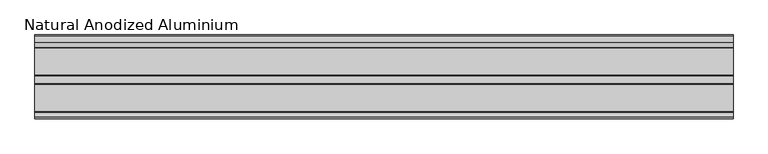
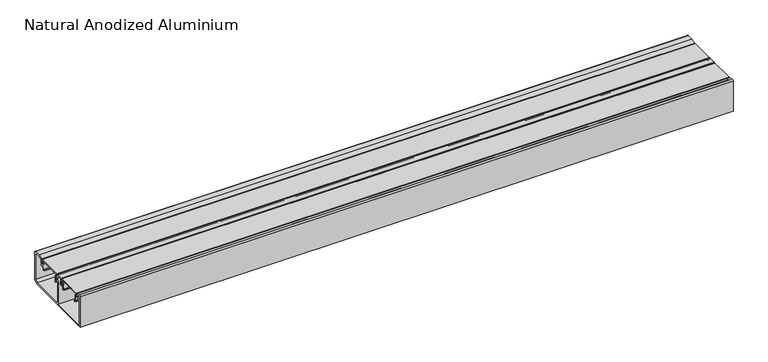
"""IFC4 building model written with IfcOpenShell, lengths in millimetres: proxy geometry, Electrical_Installations_Hager_GBA-Flat-Lid-End-Cap : Natural Anodized Aluminium."""

import ifcopenshell
import ifcopenshell.guid

model = None  # the IFC model being written
_history = None  # IfcOwnerHistory: only IFC2X3 demands one
_inside = {}  # id of a spatial element -> (the spatial element, [elements in it])
_under = {}  # id of a project, library or spatial element -> (it, [spatial elements below it])
_declared = {}  # id of a project -> (the project, [libraries it declares])
_typed = {}  # id of a type object -> (the type object, [elements of that type])
_made_of = {}  # id of a material, layer set ... -> (it, [elements and type objects made of it])


def new_model(schema):
    """Start an empty IFC model of exactly this schema.

    Asked for "IFC4X3", IfcOpenShell would pick the latest addendum, in which some entities
    have other attributes; the version numbers below select the first issue.
    IFC2X3 requires an IfcOwnerHistory on every rooted entity: one is made here for all.
    """
    global model, _history
    if schema == "IFC4X3":
        model = ifcopenshell.file(schema_version=(4, 3, 0, 0))
    else:
        model = ifcopenshell.file(schema=schema)
    _inside.clear()
    _under.clear()
    _declared.clear()
    _typed.clear()
    _made_of.clear()
    _history = None
    if model.schema == "IFC2X3":
        org = make("IfcOrganization", Name="unknown")
        user = make(
            "IfcPersonAndOrganization",
            ThePerson=make("IfcPerson", FamilyName="unknown"),
            TheOrganization=org,
        )
        app = make(
            "IfcApplication",
            ApplicationDeveloper=org,
            Version="unknown",
            ApplicationFullName="unknown",
            ApplicationIdentifier="unknown",
        )
        _history = make(
            "IfcOwnerHistory",
            OwningUser=user,
            OwningApplication=app,
            ChangeAction="ADDED",
            CreationDate=0,
        )
    return model


def make(cls, **values):
    """One entity of the class cls with the attributes given. An attribute that is None is left unset."""
    return model.create_entity(
        cls, **{name: value for name, value in values.items() if value is not None}
    )


def rooted(cls, **values):
    """An entity with a GlobalId (a new one), such as an element, a storey or a relation."""
    return make(cls, GlobalId=ifcopenshell.guid.new(), OwnerHistory=_history, **values)


def si_unit(unit_type, name, prefix=None):
    """IfcSIUnit, for example si_unit("LENGTHUNIT", "METRE", prefix="MILLI")."""
    return make("IfcSIUnit", UnitType=unit_type, Prefix=prefix, Name=name)


def assignment(units):
    """IfcUnitAssignment: the units of a project."""
    return None if units is None else make("IfcUnitAssignment", Units=units)


def point(xyz):
    """IfcCartesianPoint."""
    return None if xyz is None else make("IfcCartesianPoint", Coordinates=xyz)


def direction(xyz):
    """IfcDirection."""
    return None if xyz is None else make("IfcDirection", DirectionRatios=xyz)


def frame(location, z_axis=None, x_axis=None):
    """IfcAxis2Placement3D, a coordinate frame: its origin and axes. An axis left out is left unset."""
    return make(
        "IfcAxis2Placement3D",
        Location=point(location),
        Axis=direction(z_axis),
        RefDirection=direction(x_axis),
    )


def frame_2d(location, x_axis=None):
    """IfcAxis2Placement2D, a coordinate frame in the plane: its origin and x axis."""
    return make(
        "IfcAxis2Placement2D", Location=point(location), RefDirection=direction(x_axis)
    )


def origin():
    """The frame at (0, 0, 0) with its axes left unset."""
    return frame((0.0, 0.0, 0.0))


def place(relative_to, where):
    """IfcLocalPlacement: puts the frame where relative to a parent placement (None: the world)."""
    return make(
        "IfcLocalPlacement", PlacementRelTo=relative_to, RelativePlacement=where
    )


def context(
    kind, dimensions, precision=None, world=None, true_north=None, identifier=None
):
    """IfcGeometricRepresentationContext, for example the 3D "Model" context."""
    return make(
        "IfcGeometricRepresentationContext",
        ContextIdentifier=identifier,
        ContextType=kind,
        CoordinateSpaceDimension=dimensions,
        Precision=precision,
        WorldCoordinateSystem=world,
        TrueNorth=true_north,
    )


def project(units=None, contexts=None):
    """IfcProject with its units and contexts."""
    return rooted(
        "IfcProject",
        Name="project",
        RepresentationContexts=contexts,
        UnitsInContext=assignment(units),
    )


def spatial(cls, under=None, at=None, **own):
    """A site, building, storey or space (cls), placed at a placement, below another one or the project."""
    s = rooted(cls, ObjectPlacement=at, **own)
    if under is not None:
        _under.setdefault(under.id(), (under, []))[1].append(s)
    return s


def polyline(points):
    """IfcPolyline through the points."""
    return make("IfcPolyline", Points=[point(p) for p in points])


def circle_curve(where, radius):
    """IfcCircle in the frame where."""
    return make("IfcCircle", Position=where, Radius=radius)


def trimmed(basis, trim1, trim2, sense, master):
    """IfcTrimmedCurve: the piece of a basis curve between two trims."""
    return make(
        "IfcTrimmedCurve",
        BasisCurve=basis,
        Trim1=trim1,
        Trim2=trim2,
        SenseAgreement=sense,
        MasterRepresentation=master,
    )


def segment(curve, same_sense, transition):
    """IfcCompositeCurveSegment."""
    return make(
        "IfcCompositeCurveSegment",
        Transition=transition,
        SameSense=same_sense,
        ParentCurve=curve,
    )


def composite_curve(segments, self_intersect=None):
    """IfcCompositeCurve: segments joined end to end."""
    return make("IfcCompositeCurve", Segments=segments, SelfIntersect=self_intersect)


def outline(outer, holes=None, kind="AREA"):
    """IfcArbitraryClosedProfileDef: a profile drawn as a closed curve; with holes, ...WithVoids."""
    if holes is None:
        return make("IfcArbitraryClosedProfileDef", ProfileType=kind, OuterCurve=outer)
    return make(
        "IfcArbitraryProfileDefWithVoids",
        ProfileType=kind,
        OuterCurve=outer,
        InnerCurves=holes,
    )


def extrude(swept, where, along, depth):
    """IfcExtrudedAreaSolid: the profile swept, set in the frame where, extruded along a direction by depth."""
    return make(
        "IfcExtrudedAreaSolid",
        SweptArea=swept,
        Position=where,
        ExtrudedDirection=direction(along),
        Depth=depth,
    )


def shape(context_of_items, identifier, shape_type, items):
    """IfcShapeRepresentation: the items that make up one representation, for example the "Body"."""
    return make(
        "IfcShapeRepresentation",
        ContextOfItems=context_of_items,
        RepresentationIdentifier=identifier,
        RepresentationType=shape_type,
        Items=items,
    )


def source(mapping_origin, context_of_items, identifier, shape_type, items):
    """IfcRepresentationMap: a shape defined once, which mapped items show again and again."""
    return make(
        "IfcRepresentationMap",
        MappingOrigin=mapping_origin,
        MappedRepresentation=shape(context_of_items, identifier, shape_type, items),
    )


def transform(
    local_origin,
    x_axis=None,
    y_axis=None,
    z_axis=None,
    scale=None,
    scale2=None,
    scale3=None,
    uniform=True,
):
    """IfcCartesianTransformationOperator3D, or its non-uniform kind. x_axis, y_axis, z_axis: its Axis1, 2, 3."""
    if uniform:
        return make(
            "IfcCartesianTransformationOperator3D",
            Axis1=direction(x_axis),
            Axis2=direction(y_axis),
            LocalOrigin=point(local_origin),
            Scale=scale,
            Axis3=direction(z_axis),
        )
    return make(
        "IfcCartesianTransformationOperator3DnonUniform",
        Axis1=direction(x_axis),
        Axis2=direction(y_axis),
        LocalOrigin=point(local_origin),
        Scale=scale,
        Axis3=direction(z_axis),
        Scale2=scale2,
        Scale3=scale3,
    )


def mapped(mapping_source, mapping_target):
    """IfcMappedItem: shows the shape of a source again, moved by a transform."""
    return make(
        "IfcMappedItem", MappingSource=mapping_source, MappingTarget=mapping_target
    )


def made_of(thing, what):
    """Note that an element or type object is made of a material, layer set ...; save() writes the relation."""
    if what is not None:
        _made_of.setdefault(what.id(), (what, []))[1].append(thing)
    return thing


def element(
    cls,
    number,
    at=None,
    inside=None,
    cuts=None,
    type_object=None,
    material=None,
    context=None,
    identifier="Body",
    shape_type=None,
    held_by="IfcProductDefinitionShape",
    body=None,
    shapes=None,
    **own,
):
    """One element of the class cls, such as IfcWall. Its Tag is "e" and its number.

    at: its placement. inside: the storey or other place that contains it. cuts: it is an
    opening in that element (IfcRelVoidsElement). A single representation is given by context,
    identifier, shape_type and body (its items); several are given by shapes. held_by: the class
    of the entity that holds the representations. save() writes the other relations.
    """
    e = rooted(cls, Tag="e%d" % number, ObjectPlacement=at, **own)
    if body is not None:
        shapes = [shape(context, identifier, shape_type, body)]
    if shapes is not None:
        e.Representation = make(held_by, Representations=shapes)
    if inside is not None:
        _inside.setdefault(inside.id(), (inside, []))[1].append(e)
    if cuts is not None:
        rooted(
            "IfcRelVoidsElement", RelatingBuildingElement=cuts, RelatedOpeningElement=e
        )
    if type_object is not None:
        _typed.setdefault(type_object.id(), (type_object, []))[1].append(e)
    return made_of(e, material)


def aggregate(whole, parts):
    """IfcRelAggregates: a whole, such as a stair, and the parts it consists of."""
    return rooted("IfcRelAggregates", RelatingObject=whole, RelatedObjects=parts)


def save(model, path):
    """Write the relations noted so far, then the file.

    IfcRelAggregates (storeys below a building ...), IfcRelContainedInSpatialStructure (elements
    in a storey), IfcRelDefinesByType, IfcRelAssociatesMaterial and IfcRelDeclares: one each for
    every whole, place, type object, material and project.
    """
    for whole, parts in _under.values():
        aggregate(whole, parts)
    for where, things in _inside.values():
        rooted(
            "IfcRelContainedInSpatialStructure",
            RelatedElements=things,
            RelatingStructure=where,
        )
    for kind, things in _typed.values():
        rooted("IfcRelDefinesByType", RelatedObjects=things, RelatingType=kind)
    for what, things in _made_of.values():
        rooted("IfcRelAssociatesMaterial", RelatedObjects=things, RelatingMaterial=what)
    for by, libraries in _declared.values():
        rooted("IfcRelDeclares", RelatingContext=by, RelatedDefinitions=libraries)
    model.write(path)


def natural_anodized_aluminium_e00abe71(model_context):
    return source(origin(), model_context, "Body", "SweptSolid", [
        extrude(outline(composite_curve([segment(polyline([(-64.6976563, 54.0894343), (-64.6976563, 2.0), (-2.2476563, 2.0), (-2.2476563, 38.3324137), (-0.2476563, 49.6749773), (-0.2476563, 52.0), (-9.8476563, 52.0), (-9.8476563, 41.5012147), (-14.5382813, 41.5012147), (-14.5382813, 45.748101), (-13.5382813, 45.748101), (-13.5382813, 42.9887147), (-11.6476563, 42.9887147), (-11.6476563, 53.0031102)]), True, "CONTINUOUS"), segment(trimmed(circle_curve(frame_2d((-10.6507665, 53.0031102)), 0.9968898), [point((-11.6476563, 53.0031102))], [point((-10.6507665, 54.0))], False, "CARTESIAN"), True, "CONTINUOUS"), segment(polyline([(-10.6507665, 54.0), (0.7441474, 54.0)]), True, "CONTINUOUS"), segment(trimmed(circle_curve(frame_2d((0.7441474, 52.9918037)), 1.0081963), [point((0.7441474, 54.0))], [point((1.7523437, 52.9918037))], False, "CARTESIAN"), True, "CONTINUOUS"), segment(polyline([(1.7523437, 52.9918037), (1.7523437, 49.5), (0.6591165, 43.3), (3.2523437, 43.3), (3.2523437, 45.7537431), (4.2523437, 45.7537431), (4.2523437, 41.5), (0.3417279, 41.5), (-0.2476563, 38.1574364), (-0.2476563, 2.0), (60.5496526, 2.0), (64.5023437, 5.9526912), (64.5023437, 54.2), (54.8614746, 54.2), (48.5523437, 52.1500391), (48.5523437, 41.5), (44.2523437, 41.5), (44.2523437, 45.7556921), (45.2523437, 45.7556921), (45.2523437, 42.9887147), (46.7523437, 42.9887147), (46.7523437, 53.9835468), (54.4971904, 56.5), (64.8989144, 56.5)]), True, "CONTINUOUS"), segment(trimmed(circle_curve(frame_2d((64.8989144, 54.5965707)), 1.9034293), [point((64.8989144, 56.5))], [point((66.8023437, 54.5965707))], False, "CARTESIAN"), True, "CONTINUOUS"), segment(polyline([(66.8023437, 54.5965707), (66.8023437, 5.0), (61.8023437, 0.0), (-66.9976563, 0.0), (-66.9976563, 54.4045249)]), True, "CONTINUOUS"), segment(trimmed(circle_curve(frame_2d((-64.9278927, 54.4045249)), 2.0697636), [point((-66.9976563, 54.4045249))], [point((-64.2989994, 56.3764312))], False, "CARTESIAN"), True, "CONTINUOUS"), segment(polyline([(-64.2989994, 56.3764312), (-56.8429688, 53.998505), (-56.8429688, 42.9887147), (-54.6789063, 42.9887147), (-54.6789063, 45.7565885), (-53.6789063, 45.7565885), (-53.6789063, 41.5012147), (-58.4476563, 41.5012147), (-58.4476563, 52.0961433), (-64.6976563, 54.0894343)]), True, "CONTINUOUS")], self_intersect=False)), frame((0.0, 0.0, 0.0), z_axis=(1.0, 0.0, 0.0), x_axis=(0.0, 1.0, 0.0)), (0.0, 0.0, 1.0), 1112.5),
        extrude(outline(composite_curve([segment(polyline([(-13.1613464, 52.5816445), (-55.0613464, 52.5816445), (-55.0613464, 49.2816445), (-53.7229555, 49.2816445)]), True, "CONTINUOUS"), segment(trimmed(circle_curve(frame_2d((-53.7229555, 47.1700354)), 2.1116091), [point((-53.7229555, 49.2816445))], [point((-51.6113464, 47.1700354))], False, "CARTESIAN"), True, "CONTINUOUS"), segment(polyline([(-51.6113464, 47.1700354), (-51.6113464, 37.6816445), (-49.7113464, 37.6816445), (-49.7113464, 36.8816445), (-52.6113464, 36.8816445), (-52.6113464, 47.3262929)]), True, "CONTINUOUS"), segment(trimmed(circle_curve(frame_2d((-53.566698, 47.3262929)), 0.9553516), [point((-52.6113464, 47.3262929))], [point((-53.566698, 48.2816445))], True, "CARTESIAN"), True, "CONTINUOUS"), segment(polyline([(-53.566698, 48.2816445), (-55.3644879, 48.2816445), (-55.3644879, 43.8012242), (-56.3660339, 43.8012242), (-56.3660339, 53.0900381)]), True, "CONTINUOUS"), segment(trimmed(circle_curve(frame_2d((-55.456072, 53.0900381)), 0.9099619), [point((-56.3660339, 53.0900381))], [point((-55.456072, 54.0))], False, "CARTESIAN"), True, "CONTINUOUS"), segment(polyline([(-55.456072, 54.0), (-12.9820268, 54.0)]), True, "CONTINUOUS"), segment(trimmed(circle_curve(frame_2d((-12.9820268, 52.9918196)), 1.0081804), [point((-12.9820268, 54.0))], [point((-11.9738464, 52.9918196))], False, "CARTESIAN"), True, "CONTINUOUS"), segment(polyline([(-11.9738464, 52.9918196), (-11.9738464, 43.8012242), (-12.858205, 43.8012242), (-12.858205, 48.2816445), (-14.6025892, 48.2816445)]), True, "CONTINUOUS"), segment(trimmed(circle_curve(frame_2d((-14.6025892, 47.2728873)), 1.0087572), [point((-14.6025892, 48.2816445))], [point((-15.6113464, 47.2728873))], True, "CARTESIAN"), True, "CONTINUOUS"), segment(polyline([(-15.6113464, 47.2728873), (-15.6113464, 36.8816445), (-18.5113464, 36.8816445), (-18.5113464, 37.6816445), (-16.6113464, 37.6816445), (-16.6113464, 47.3197896)]), True, "CONTINUOUS"), segment(trimmed(circle_curve(frame_2d((-14.6494915, 47.3197896)), 1.9618549), [point((-16.6113464, 47.3197896))], [point((-14.6494915, 49.2816445))], False, "CARTESIAN"), True, "CONTINUOUS"), segment(polyline([(-14.6494915, 49.2816445), (-13.1613464, 49.2816445), (-13.1613464, 52.5816445)]), True, "CONTINUOUS")], self_intersect=False)), frame((0.0, 0.0, 0.0), z_axis=(1.0, 0.0, 0.0), x_axis=(0.0, 1.0, 0.0)), (0.0, 0.0, 1.0), 1112.5),
        extrude(outline(composite_curve([segment(polyline([(45.1923672, 52.5816445), (3.2923672, 52.5816445), (3.2923672, 49.2816445), (4.6307581, 49.2816445)]), True, "CONTINUOUS"), segment(trimmed(circle_curve(frame_2d((4.6307581, 47.1700354)), 2.1116091), [point((4.6307581, 49.2816445))], [point((6.7423672, 47.1700354))], False, "CARTESIAN"), True, "CONTINUOUS"), segment(polyline([(6.7423672, 47.1700354), (6.7423672, 37.6816445), (8.6423672, 37.6816445), (8.6423672, 36.8816445), (5.7423672, 36.8816445), (5.7423672, 47.3262929)]), True, "CONTINUOUS"), segment(trimmed(circle_curve(frame_2d((4.7870156, 47.3262929)), 0.9553516), [point((5.7423672, 47.3262929))], [point((4.7870156, 48.2816445))], True, "CARTESIAN"), True, "CONTINUOUS"), segment(polyline([(4.7870156, 48.2816445), (2.9892258, 48.2816445), (2.9892258, 43.8231023), (1.9876797, 43.8231023), (1.9876797, 53.0900381)]), True, "CONTINUOUS"), segment(trimmed(circle_curve(frame_2d((2.8976417, 53.0900381)), 0.9099619), [point((1.9876797, 53.0900381))], [point((2.8976417, 54.0))], False, "CARTESIAN"), True, "CONTINUOUS"), segment(polyline([(2.8976417, 54.0), (45.3716869, 54.0)]), True, "CONTINUOUS"), segment(trimmed(circle_curve(frame_2d((45.3716869, 52.9918196)), 1.0081804), [point((45.3716869, 54.0))], [point((46.3798672, 52.9918196))], False, "CARTESIAN"), True, "CONTINUOUS"), segment(polyline([(46.3798672, 52.9918196), (46.3798672, 43.9733035), (45.4955087, 43.9733035), (45.4955087, 48.2816445), (43.7511244, 48.2816445)]), True, "CONTINUOUS"), segment(trimmed(circle_curve(frame_2d((43.7511244, 47.2728873)), 1.0087572), [point((43.7511244, 48.2816445))], [point((42.7423672, 47.2728873))], True, "CARTESIAN"), True, "CONTINUOUS"), segment(polyline([(42.7423672, 47.2728873), (42.7423672, 36.8816445), (39.8423672, 36.8816445), (39.8423672, 37.6816445), (41.7423672, 37.6816445), (41.7423672, 47.3197896)]), True, "CONTINUOUS"), segment(trimmed(circle_curve(frame_2d((43.7042221, 47.3197896)), 1.9618549), [point((41.7423672, 47.3197896))], [point((43.7042221, 49.2816445))], False, "CARTESIAN"), True, "CONTINUOUS"), segment(polyline([(43.7042221, 49.2816445), (45.1923672, 49.2816445), (45.1923672, 52.5816445)]), True, "CONTINUOUS")], self_intersect=False)), frame((0.0, 0.0, 0.0), z_axis=(1.0, 0.0, 0.0), x_axis=(0.0, 1.0, 0.0)), (0.0, 0.0, 1.0), 1112.5),
    ])


if __name__ == "__main__":
    model = new_model("IFC4")
    model_context = context("Model", 3, world=origin())
    ifc_project = project(units=[si_unit("LENGTHUNIT", "METRE", prefix="MILLI")], contexts=[model_context])
    site = spatial("IfcSite", under=ifc_project)
    building = spatial("IfcBuilding", under=site)
    placement = place(None, origin())
    natural_anodized_aluminium_shape = natural_anodized_aluminium_e00abe71(model_context)
    element("IfcBuildingElementProxy", 1, Name="Electrical_Installations_Hager_GBA-Flat-Lid-End-Cap : Natural Anodized Aluminium", ObjectType="Electrical_Installations_Hager_GBA-Flat-Lid-End-Cap : Natural Anodized Aluminium", at=placement, inside=building, context=model_context, shape_type="MappedRepresentation", body=[
        mapped(natural_anodized_aluminium_shape, transform((0.0, 0.0, 0.0), x_axis=(1.0, 0.0, 0.0), y_axis=(0.0, 1.0, 0.0), z_axis=(0.0, 0.0, 1.0))),
    ])
    save(model, "model.ifc")
